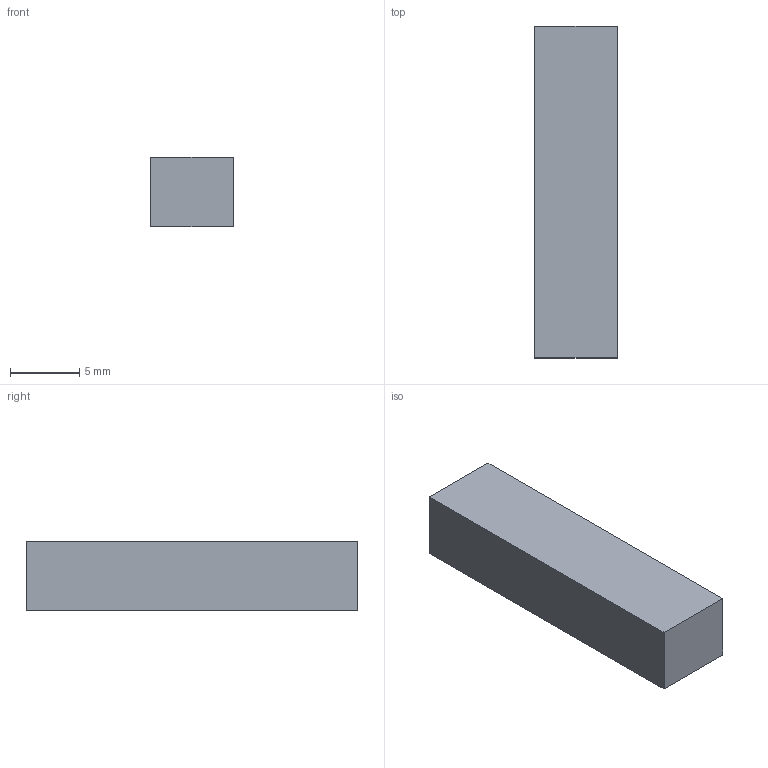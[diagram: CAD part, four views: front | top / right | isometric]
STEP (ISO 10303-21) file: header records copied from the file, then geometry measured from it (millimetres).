
FILE_DESCRIPTION(('Open CASCADE Model'),'2;1');
FILE_NAME('Open CASCADE Shape Model','2026-10-04T02:31:35',('Author'),( 'Open CASCADE'),'Open CASCADE STEP processor 8.0','Open CASCADE 8.0' ,'Unknown');
FILE_SCHEMA(('AUTOMOTIVE_DESIGN { 1 0 10303 214 1 1 1 1 }'));
Length unit declared in the file: millimetre
Products named in the file (1): Open CASCADE STEP translator 8.0 61
Bounding box: 6 x 24 x 5 mm (x, y, z)
Volume: 720 mm3; surface area: 588 mm2
Topology: 1 solids, 1 shells, 6 faces, 12 edges, 8 vertices
Faces by surface type: plane 6
Entity records: 322 total; most frequent: CARTESIAN_POINT 51, DIRECTION 50, LINE 36, VECTOR 36, ORIENTED_EDGE 24, PCURVE 24, DEFINITIONAL_REPRESENTATION 24, EDGE_CURVE 12
